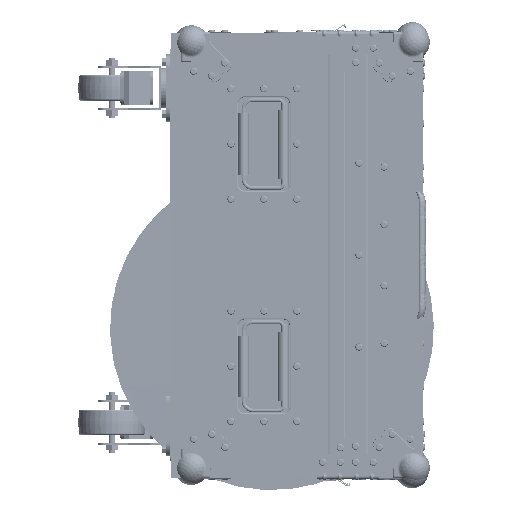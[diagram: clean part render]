
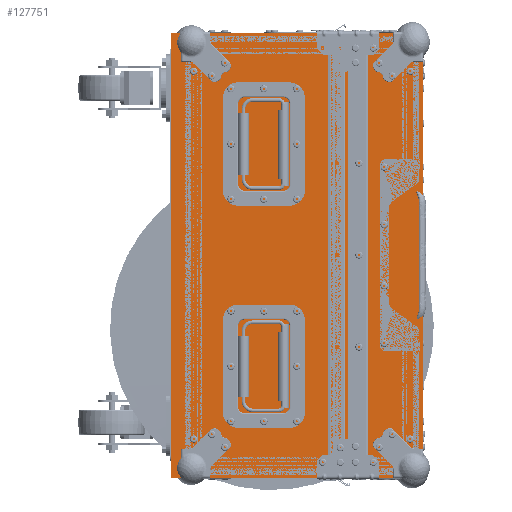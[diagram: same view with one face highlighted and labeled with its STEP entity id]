
A CAD part, front view. The second image highlights one B-rep face of the part: STEP entity #127751.
In plain terms, the highlighted planar face has unit normal (0, -1, 0).
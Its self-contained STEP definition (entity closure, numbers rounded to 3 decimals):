
#127491=DIRECTION('',(1.,0.,0.));
#127492=VECTOR('',#127491,301.929);
#127493=CARTESIAN_POINT('',(-24.,-590.3,-290.3));
#127494=LINE('',#127493,#127492);
#127505=CARTESIAN_POINT('',(291.011,-590.3,-282.77));
#127506=DIRECTION('',(0.,-1.,0.));
#127507=DIRECTION('',(0.966,0.,0.257));
#127508=AXIS2_PLACEMENT_3D('',#127505,#127506,#127507);
#127510=DIRECTION('',(0.,0.,1.));
#127511=VECTOR('',#127510,580.6);
#127512=CARTESIAN_POINT('',(-24.,-590.3,-290.3));
#127513=LINE('',#127512,#127511);
#127514=CARTESIAN_POINT('',(291.011,-590.3,282.77));
#127515=DIRECTION('',(0.,-1.,0.));
#127516=DIRECTION('',(-0.867,0.,0.499));
#127517=AXIS2_PLACEMENT_3D('',#127514,#127515,#127516);
#127557=DIRECTION('',(0.,0.,1.));
#127558=VECTOR('',#127557,557.793);
#127559=CARTESIAN_POINT('',(305.6,-590.3,-278.896));
#127560=LINE('',#127559,#127558);
#127606=DIRECTION('',(1.,0.,0.));
#127607=VECTOR('',#127606,301.929);
#127608=CARTESIAN_POINT('',(-24.,-590.3,290.3));
#127609=LINE('',#127608,#127607);
#127638=CARTESIAN_POINT('',(-24.,-590.3,-290.3));
#127640=VERTEX_POINT('',#127638);
#127642=CARTESIAN_POINT('',(-24.,-590.3,290.3));
#127644=VERTEX_POINT('',#127642);
#127656=CARTESIAN_POINT('',(277.929,-590.3,290.3));
#127658=VERTEX_POINT('',#127656);
#127663=CARTESIAN_POINT('',(305.6,-590.3,278.896));
#127664=VERTEX_POINT('',#127663);
#127672=CARTESIAN_POINT('',(277.929,-590.3,-290.3));
#127674=VERTEX_POINT('',#127672);
#127683=CARTESIAN_POINT('',(305.6,-590.3,-278.896));
#127684=VERTEX_POINT('',#127683);
#127734=CARTESIAN_POINT('',(-24.,-590.3,-290.3));
#127735=DIRECTION('',(0.,-1.,0.));
#127736=DIRECTION('',(1.,0.,0.));
#127737=AXIS2_PLACEMENT_3D('',#127734,#127735,#127736);
#127738=PLANE('',#127737);
#127739=ORIENTED_EDGE('',*,*,#127726,.T.);
#127740=ORIENTED_EDGE('',*,*,#127700,.F.);
#127742=ORIENTED_EDGE('',*,*,#127741,.T.);
#127744=ORIENTED_EDGE('',*,*,#127743,.T.);
#127746=ORIENTED_EDGE('',*,*,#127745,.T.);
#127748=ORIENTED_EDGE('',*,*,#127747,.F.);
#127749=EDGE_LOOP('',(#127739,#127740,#127742,#127744,#127746,#127748));
#127750=FACE_OUTER_BOUND('',#127749,.F.);
#127751=ADVANCED_FACE('',(#127750),#127738,.T.);
#127509=CIRCLE('',#127508,15.094);
#127518=CIRCLE('',#127517,15.094);
#127700=EDGE_CURVE('',#127640,#127674,#127494,.T.);
#127726=EDGE_CURVE('',#127684,#127674,#127509,.T.);
#127741=EDGE_CURVE('',#127640,#127644,#127513,.T.);
#127743=EDGE_CURVE('',#127644,#127658,#127609,.T.);
#127745=EDGE_CURVE('',#127658,#127664,#127518,.T.);
#127747=EDGE_CURVE('',#127684,#127664,#127560,.T.);
